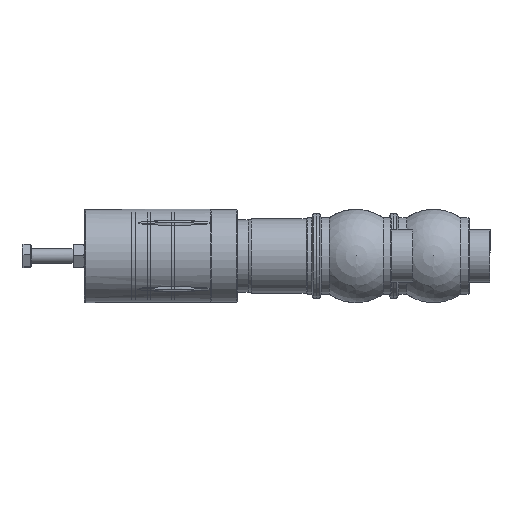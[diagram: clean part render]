
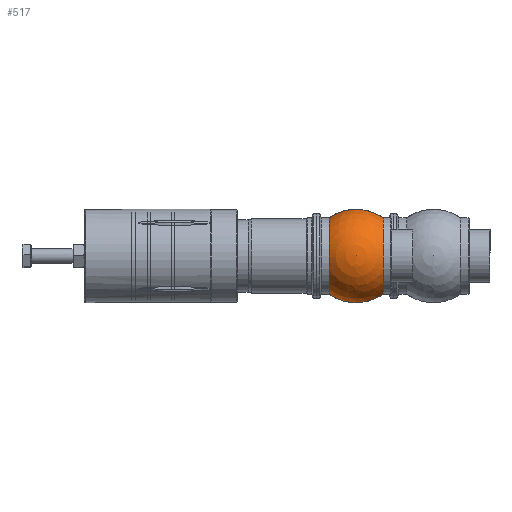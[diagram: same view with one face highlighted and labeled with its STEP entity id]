
A CAD part, left-side view. The second image highlights one B-rep face of the part: STEP entity #517.
In plain terms, the highlighted spherical face has radius 44.75 mm.
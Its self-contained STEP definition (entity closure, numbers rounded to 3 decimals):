
#377=CARTESIAN_POINT('',(25.4,54.0,36.843));
#378=VERTEX_POINT('',#377);
#379=CARTESIAN_POINT('',(0.0,54.0,36.843));
#380=DIRECTION('',(0.0,0.0,-1.0));
#381=DIRECTION('',(-1.0,0.0,0.0));
#382=AXIS2_PLACEMENT_3D('',#379,#380,#381);
#383=CIRCLE('',#382,25.4);
#384=EDGE_CURVE('',#378,#378,#383,.T.);
#480=CARTESIAN_POINT('',(-36.5,28.11,0.0));
#481=VERTEX_POINT('',#480);
#482=CARTESIAN_POINT('',(0.0,28.11,0.0));
#483=DIRECTION('',(0.0,1.0,0.0));
#484=DIRECTION('',(-1.0,0.0,0.0));
#485=AXIS2_PLACEMENT_3D('',#482,#483,#484);
#486=CIRCLE('',#485,36.5);
#487=EDGE_CURVE('',#481,#481,#486,.T.);
#495=CARTESIAN_POINT('',(0.0,54.,0.0));
#496=DIRECTION('',(0.0,0.0,1.0));
#497=DIRECTION('',(1.0,0.0,0.0));
#498=AXIS2_PLACEMENT_3D('',#495,#496,#497);
#499=SPHERICAL_SURFACE('',#498,44.75);
#500=ORIENTED_EDGE('',*,*,#384,.T.);
#501=EDGE_LOOP('',(#500));
#502=FACE_OUTER_BOUND('',#501,.T.);
#503=ORIENTED_EDGE('',*,*,#487,.T.);
#504=EDGE_LOOP('',(#503));
#505=FACE_BOUND('',#504,.T.);
#506=CARTESIAN_POINT('',(-36.5,79.89,0.0));
#507=VERTEX_POINT('',#506);
#508=CARTESIAN_POINT('',(0.0,79.89,0.0));
#509=DIRECTION('',(0.0,1.0,0.0));
#510=DIRECTION('',(-1.0,0.0,0.0));
#511=AXIS2_PLACEMENT_3D('',#508,#509,#510);
#512=CIRCLE('',#511,36.5);
#513=EDGE_CURVE('',#507,#507,#512,.T.);
#514=ORIENTED_EDGE('',*,*,#513,.F.);
#515=EDGE_LOOP('',(#514));
#516=FACE_BOUND('',#515,.T.);
#517=ADVANCED_FACE('',(#502,#505,#516),#499,.T.);
